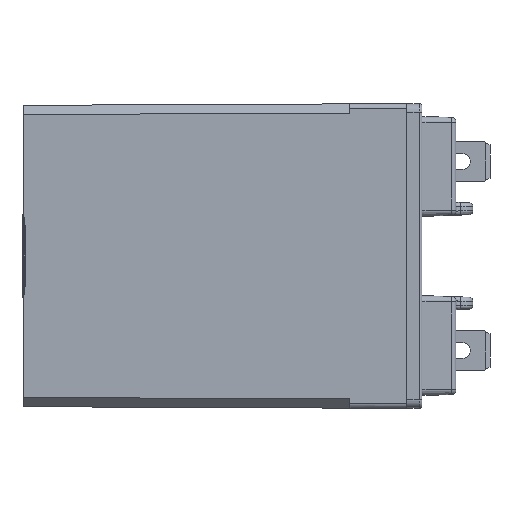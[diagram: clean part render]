
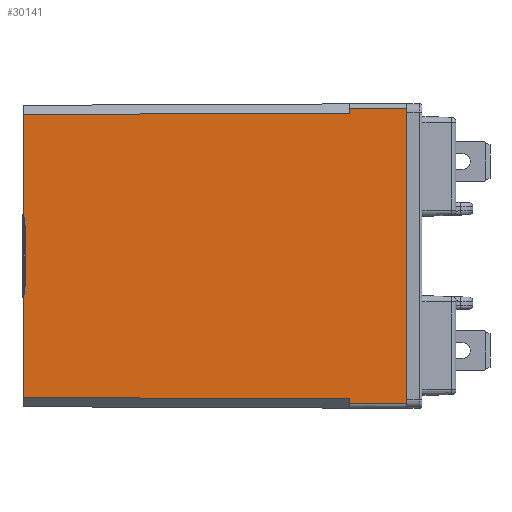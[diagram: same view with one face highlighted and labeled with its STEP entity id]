
A CAD part, front view. The second image highlights one B-rep face of the part: STEP entity #30141.
In plain terms, the highlighted planar face has unit normal (-0.004, -1, 0).
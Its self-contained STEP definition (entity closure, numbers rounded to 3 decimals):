
#59 = DIRECTION ( 'NONE',  ( 0., 0., 1. ) ) ;
#375 = CARTESIAN_POINT ( 'NONE',  ( 0., -17.9, -17.3 ) ) ;
#530 = CARTESIAN_POINT ( 'NONE',  ( -6.7, -17.871, -17.9 ) ) ;
#601 = EDGE_CURVE ( 'NONE', #32665, #18668, #19110, .T. ) ;
#790 = DIRECTION ( 'NONE',  ( -1., 0.004, 0.002 ) ) ;
#946 = CARTESIAN_POINT ( 'NONE',  ( -41.489, -17.719, -23.086 ) ) ;
#1234 = VERTEX_POINT ( 'NONE', #12680 ) ;
#2030 = CARTESIAN_POINT ( 'NONE',  ( -6.7, -17.871, -16.726 ) ) ;
#2093 = EDGE_CURVE ( 'NONE', #6767, #18668, #37717, .T. ) ;
#3023 = LINE ( 'NONE', #23043, #37436 ) ;
#3131 = DIRECTION ( 'NONE',  ( -0.004, -1., 0. ) ) ;
#3612 = CARTESIAN_POINT ( 'NONE',  ( 0., -17.9, -17.9 ) ) ;
#3809 = ORIENTED_EDGE ( 'NONE', *, *, #28916, .F. ) ;
#3948 = VECTOR ( 'NONE', #31074, 1000. ) ;
#4349 = LINE ( 'NONE', #28001, #3948 ) ;
#4507 = VECTOR ( 'NONE', #36857, 1000. ) ;
#4859 = CARTESIAN_POINT ( 'NONE',  ( -45., -17.704, -5. ) ) ;
#5720 = VERTEX_POINT ( 'NONE', #27874 ) ;
#5944 = EDGE_CURVE ( 'NONE', #32665, #19832, #7083, .T. ) ;
#6434 = VECTOR ( 'NONE', #790, 1000. ) ;
#6714 = DIRECTION ( 'NONE',  ( 0.124, -0.001, -0.992 ) ) ;
#6767 = VERTEX_POINT ( 'NONE', #375 ) ;
#7083 = LINE ( 'NONE', #3612, #34335 ) ;
#7304 = VERTEX_POINT ( 'NONE', #19197 ) ;
#8566 = ORIENTED_EDGE ( 'NONE', *, *, #25153, .F. ) ;
#8716 = FACE_OUTER_BOUND ( 'NONE', #15147, .T. ) ;
#9082 = CARTESIAN_POINT ( 'NONE',  ( 0., -17.9, -17.9 ) ) ;
#9253 = LINE ( 'NONE', #33092, #20997 ) ;
#9276 = CARTESIAN_POINT ( 'NONE',  ( -6.7, -17.871, 16.726 ) ) ;
#9796 = LINE ( 'NONE', #18827, #36673 ) ;
#9819 = LINE ( 'NONE', #19033, #6434 ) ;
#10468 = EDGE_CURVE ( 'NONE', #24678, #5720, #3023, .T. ) ;
#10543 = ORIENTED_EDGE ( 'NONE', *, *, #10468, .F. ) ;
#10896 = CARTESIAN_POINT ( 'NONE',  ( 0., -17.9, -16.9 ) ) ;
#11198 = VECTOR ( 'NONE', #23470, 1000. ) ;
#12141 = VECTOR ( 'NONE', #12248, 1000. ) ;
#12248 = DIRECTION ( 'NONE',  ( 0., 0., 1. ) ) ;
#12365 = VECTOR ( 'NONE', #19098, 1000. ) ;
#12680 = CARTESIAN_POINT ( 'NONE',  ( -6.7, -17.871, -17.271 ) ) ;
#12694 = DIRECTION ( 'NONE',  ( 0., 0., 1. ) ) ;
#12707 = ORIENTED_EDGE ( 'NONE', *, *, #36523, .T. ) ;
#12708 = ORIENTED_EDGE ( 'NONE', *, *, #27223, .F. ) ;
#13261 = CARTESIAN_POINT ( 'NONE',  ( 0., -17.9, 17.3 ) ) ;
#13284 = ORIENTED_EDGE ( 'NONE', *, *, #20427, .T. ) ;
#13659 = CARTESIAN_POINT ( 'NONE',  ( -45.895, -17.7, -12.163 ) ) ;
#14549 = EDGE_CURVE ( 'NONE', #14974, #22515, #31284, .T. ) ;
#14974 = VERTEX_POINT ( 'NONE', #29106 ) ;
#15147 = EDGE_LOOP ( 'NONE', ( #37138, #15513, #3809, #8566, #32619, #12707, #17168, #20955, #20172, #33297, #34457, #12708, #10543, #13284 ) ) ;
#15148 = LINE ( 'NONE', #530, #12141 ) ;
#15513 = ORIENTED_EDGE ( 'NONE', *, *, #29413, .T. ) ;
#16564 = VERTEX_POINT ( 'NONE', #17644 ) ;
#16594 = CARTESIAN_POINT ( 'NONE',  ( 0.003, -17.9, -17.3 ) ) ;
#16930 = EDGE_CURVE ( 'NONE', #19832, #7304, #9796, .T. ) ;
#17168 = ORIENTED_EDGE ( 'NONE', *, *, #2093, .T. ) ;
#17269 = EDGE_CURVE ( 'NONE', #1234, #20980, #15148, .T. ) ;
#17553 = PLANE ( 'NONE',  #27175 ) ;
#17644 = CARTESIAN_POINT ( 'NONE',  ( -45., -17.704, -16.657 ) ) ;
#18530 = CARTESIAN_POINT ( 'NONE',  ( -45., -17.704, -17.9 ) ) ;
#18668 = VERTEX_POINT ( 'NONE', #10896 ) ;
#18827 = CARTESIAN_POINT ( 'NONE',  ( -0.154, -17.899, 17.299 ) ) ;
#19033 = CARTESIAN_POINT ( 'NONE',  ( 0.002, -17.9, -16.738 ) ) ;
#19098 = DIRECTION ( 'NONE',  ( 0., 0., 1. ) ) ;
#19110 = LINE ( 'NONE', #30850, #26617 ) ;
#19197 = CARTESIAN_POINT ( 'NONE',  ( -6.7, -17.871, 17.271 ) ) ;
#19832 = VERTEX_POINT ( 'NONE', #13261 ) ;
#20172 = ORIENTED_EDGE ( 'NONE', *, *, #5944, .T. ) ;
#20427 = EDGE_CURVE ( 'NONE', #24678, #14974, #26707, .T. ) ;
#20955 = ORIENTED_EDGE ( 'NONE', *, *, #601, .F. ) ;
#20980 = VERTEX_POINT ( 'NONE', #2030 ) ;
#20997 = VECTOR ( 'NONE', #12694, 1000. ) ;
#21972 = CARTESIAN_POINT ( 'NONE',  ( -45., -17.704, 5. ) ) ;
#22175 = LINE ( 'NONE', #18530, #12365 ) ;
#22515 = VERTEX_POINT ( 'NONE', #35996 ) ;
#22569 = DIRECTION ( 'NONE',  ( 0., 0., -1. ) ) ;
#23043 = CARTESIAN_POINT ( 'NONE',  ( -45., -17.704, -17.9 ) ) ;
#23470 = DIRECTION ( 'NONE',  ( 0., 0., 1. ) ) ;
#24678 = VERTEX_POINT ( 'NONE', #21972 ) ;
#24716 = VECTOR ( 'NONE', #31362, 1000. ) ;
#25153 = EDGE_CURVE ( 'NONE', #20980, #16564, #9819, .T. ) ;
#25720 = DIRECTION ( 'NONE',  ( 0., 0., 1. ) ) ;
#26041 = VERTEX_POINT ( 'NONE', #4859 ) ;
#26617 = VECTOR ( 'NONE', #22569, 1000. ) ;
#26707 = LINE ( 'NONE', #946, #35297 ) ;
#26845 = CARTESIAN_POINT ( 'NONE',  ( 0., -17.9, 16.9 ) ) ;
#27175 = AXIS2_PLACEMENT_3D ( 'NONE', #9082, #3131, #59 ) ;
#27223 = EDGE_CURVE ( 'NONE', #5720, #30121, #4349, .T. ) ;
#27826 = CARTESIAN_POINT ( 'NONE',  ( -44.75, -17.705, -17.9 ) ) ;
#27874 = CARTESIAN_POINT ( 'NONE',  ( -45., -17.704, 16.657 ) ) ;
#28001 = CARTESIAN_POINT ( 'NONE',  ( -0.063, -17.9, 16.738 ) ) ;
#28866 = CARTESIAN_POINT ( 'NONE',  ( 0., -17.9, -17.9 ) ) ;
#28916 = EDGE_CURVE ( 'NONE', #16564, #26041, #22175, .T. ) ;
#29106 = CARTESIAN_POINT ( 'NONE',  ( -44.75, -17.705, 3. ) ) ;
#29413 = EDGE_CURVE ( 'NONE', #22515, #26041, #33857, .T. ) ;
#30121 = VERTEX_POINT ( 'NONE', #9276 ) ;
#30141 = ADVANCED_FACE ( 'NONE', ( #8716 ), #17553, .T. ) ;
#30145 = DIRECTION ( 'NONE',  ( 0., 0., 1. ) ) ;
#30819 = LINE ( 'NONE', #16594, #36926 ) ;
#30850 = CARTESIAN_POINT ( 'NONE',  ( 0., -17.9, 16.9 ) ) ;
#31074 = DIRECTION ( 'NONE',  ( 1., -0.004, 0.002 ) ) ;
#31284 = LINE ( 'NONE', #27826, #4507 ) ;
#31362 = DIRECTION ( 'NONE',  ( -0.124, 0.001, -0.992 ) ) ;
#32619 = ORIENTED_EDGE ( 'NONE', *, *, #17269, .F. ) ;
#32665 = VERTEX_POINT ( 'NONE', #26845 ) ;
#33092 = CARTESIAN_POINT ( 'NONE',  ( -6.7, -17.871, -17.9 ) ) ;
#33260 = DIRECTION ( 'NONE',  ( -1., 0.004, -0.004 ) ) ;
#33297 = ORIENTED_EDGE ( 'NONE', *, *, #16930, .T. ) ;
#33857 = LINE ( 'NONE', #13659, #24716 ) ;
#34260 = DIRECTION ( 'NONE',  ( 1., -0.004, -0.004 ) ) ;
#34335 = VECTOR ( 'NONE', #30145, 1000. ) ;
#34457 = ORIENTED_EDGE ( 'NONE', *, *, #36815, .F. ) ;
#35297 = VECTOR ( 'NONE', #6714, 1000. ) ;
#35996 = CARTESIAN_POINT ( 'NONE',  ( -44.75, -17.705, -3. ) ) ;
#36523 = EDGE_CURVE ( 'NONE', #1234, #6767, #30819, .T. ) ;
#36673 = VECTOR ( 'NONE', #33260, 1000. ) ;
#36815 = EDGE_CURVE ( 'NONE', #30121, #7304, #9253, .T. ) ;
#36857 = DIRECTION ( 'NONE',  ( 0., 0., -1. ) ) ;
#36926 = VECTOR ( 'NONE', #34260, 1000. ) ;
#37138 = ORIENTED_EDGE ( 'NONE', *, *, #14549, .T. ) ;
#37436 = VECTOR ( 'NONE', #25720, 1000. ) ;
#37717 = LINE ( 'NONE', #28866, #11198 ) ;
